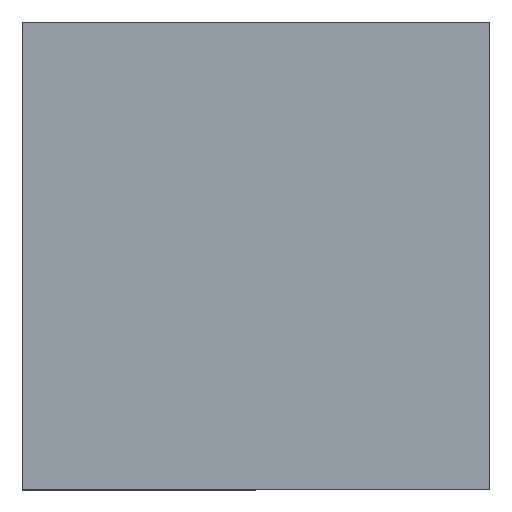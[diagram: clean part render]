
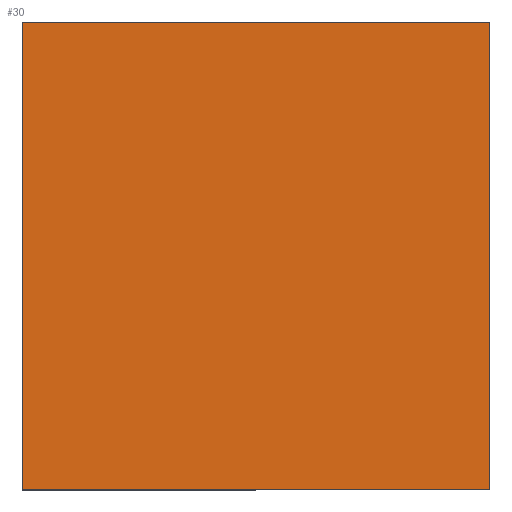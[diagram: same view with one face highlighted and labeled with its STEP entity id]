
A CAD part, top view. The second image highlights one B-rep face of the part: STEP entity #30.
In plain terms, the highlighted planar face has unit normal (0, 0, 1).
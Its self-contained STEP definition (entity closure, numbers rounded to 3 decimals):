
#21 = VERTEX_POINT ( 'NONE', #55 ) ;
#22 = DIRECTION ( 'NONE',  ( 1., 0., 0. ) ) ;
#30 = ADVANCED_FACE ( 'NONE', ( #94 ), #51, .T. ) ;
#31 = LINE ( 'NONE', #90, #92 ) ;
#38 = CARTESIAN_POINT ( 'NONE',  ( -125., -125., 3. ) ) ;
#51 = PLANE ( 'NONE',  #128 ) ;
#55 = CARTESIAN_POINT ( 'NONE',  ( -125., 125., 3. ) ) ;
#59 = DIRECTION ( 'NONE',  ( 0., -1., 0. ) ) ;
#67 = DIRECTION ( 'NONE',  ( 0., 0., 1. ) ) ;
#69 = VECTOR ( 'NONE', #119, 1000. ) ;
#70 = CARTESIAN_POINT ( 'NONE',  ( 0., 0., 3. ) ) ;
#73 = CARTESIAN_POINT ( 'NONE',  ( 125., -125., 3. ) ) ;
#88 = VERTEX_POINT ( 'NONE', #99 ) ;
#90 = CARTESIAN_POINT ( 'NONE',  ( -125., -125., 3. ) ) ;
#92 = VECTOR ( 'NONE', #59, 1000. ) ;
#94 = FACE_OUTER_BOUND ( 'NONE', #163, .T. ) ;
#95 = ORIENTED_EDGE ( 'NONE', *, *, #158, .T. ) ;
#96 = LINE ( 'NONE', #116, #109 ) ;
#99 = CARTESIAN_POINT ( 'NONE',  ( 125., -125., 3. ) ) ;
#100 = DIRECTION ( 'NONE',  ( -1., 0., 0. ) ) ;
#109 = VECTOR ( 'NONE', #100, 1000. ) ;
#112 = VECTOR ( 'NONE', #135, 1000. ) ;
#115 = VERTEX_POINT ( 'NONE', #140 ) ;
#116 = CARTESIAN_POINT ( 'NONE',  ( 125., 125., 3. ) ) ;
#119 = DIRECTION ( 'NONE',  ( 1., 0., 0. ) ) ;
#120 = EDGE_CURVE ( 'NONE', #21, #146, #31, .T. ) ;
#122 = LINE ( 'NONE', #169, #112 ) ;
#123 = ORIENTED_EDGE ( 'NONE', *, *, #147, .T. ) ;
#128 = AXIS2_PLACEMENT_3D ( 'NONE', #70, #67, #22 ) ;
#135 = DIRECTION ( 'NONE',  ( 0., 1., 0. ) ) ;
#140 = CARTESIAN_POINT ( 'NONE',  ( 125., 125., 3. ) ) ;
#143 = ORIENTED_EDGE ( 'NONE', *, *, #120, .T. ) ;
#146 = VERTEX_POINT ( 'NONE', #38 ) ;
#147 = EDGE_CURVE ( 'NONE', #88, #115, #122, .T. ) ;
#158 = EDGE_CURVE ( 'NONE', #115, #21, #96, .T. ) ;
#163 = EDGE_LOOP ( 'NONE', ( #143, #202, #123, #95 ) ) ;
#169 = CARTESIAN_POINT ( 'NONE',  ( 125., -125., 3. ) ) ;
#178 = EDGE_CURVE ( 'NONE', #146, #88, #199, .T. ) ;
#199 = LINE ( 'NONE', #73, #69 ) ;
#202 = ORIENTED_EDGE ( 'NONE', *, *, #178, .T. ) ;
